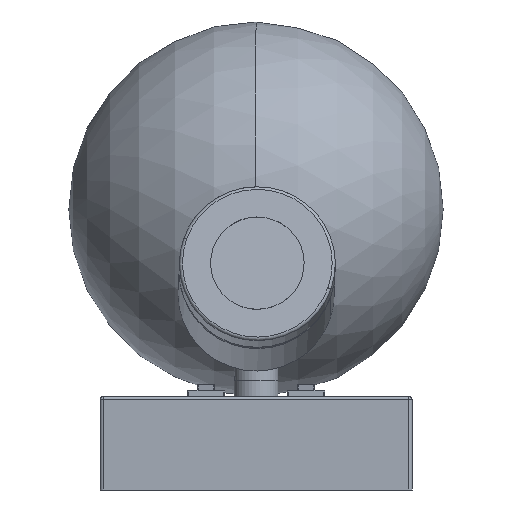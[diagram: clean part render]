
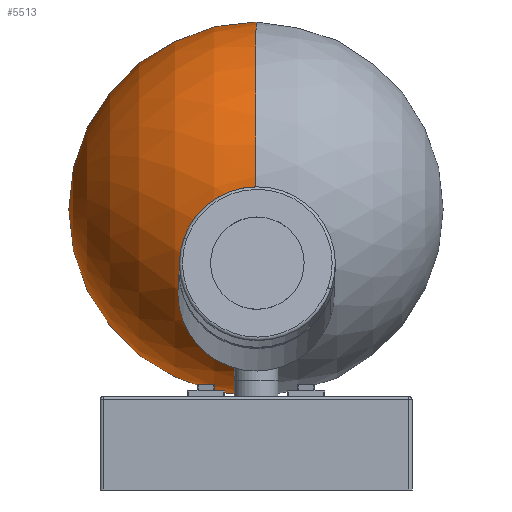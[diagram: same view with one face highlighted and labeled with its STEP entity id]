
A CAD part, front view. The second image highlights one B-rep face of the part: STEP entity #5513.
In plain terms, the highlighted spherical face has radius 60 mm.
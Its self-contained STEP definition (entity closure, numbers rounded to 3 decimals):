
#64 = VERTEX_POINT ( 'NONE', #4832 ) ;
#106 = CARTESIAN_POINT ( 'NONE',  ( 0., 75., 90. ) ) ;
#550 = VERTEX_POINT ( 'NONE', #1259 ) ;
#893 = EDGE_CURVE ( 'NONE', #64, #550, #4265, .T. ) ;
#1259 = CARTESIAN_POINT ( 'NONE',  ( 0., 75., 150. ) ) ;
#1564 = DIRECTION ( 'NONE',  ( -1., 0., 0. ) ) ;
#1774 = DIRECTION ( 'NONE',  ( 0., -1., 0. ) ) ;
#1956 = DIRECTION ( 'NONE',  ( 0., 0., -1. ) ) ;
#2278 = DIRECTION ( 'NONE',  ( -1., 0., 0. ) ) ;
#2760 = ORIENTED_EDGE ( 'NONE', *, *, #893, .T. ) ;
#2869 = EDGE_LOOP ( 'NONE', ( #6044, #2760 ) ) ;
#2921 = AXIS2_PLACEMENT_3D ( 'NONE', #5344, #2278, #1774 ) ;
#3937 = CARTESIAN_POINT ( 'NONE',  ( 0., 75., 90. ) ) ;
#4022 = DIRECTION ( 'NONE',  ( 1., 0., 0. ) ) ;
#4050 = FACE_OUTER_BOUND ( 'NONE', #2869, .T. ) ;
#4265 = CIRCLE ( 'NONE', #2921, 60. ) ;
#4832 = CARTESIAN_POINT ( 'NONE',  ( 0., 75., 30. ) ) ;
#4992 = CIRCLE ( 'NONE', #6559, 60. ) ;
#5071 = SPHERICAL_SURFACE ( 'NONE', #6100, 60. ) ;
#5344 = CARTESIAN_POINT ( 'NONE',  ( 0., 75., 90. ) ) ;
#5513 = ADVANCED_FACE ( 'NONE', ( #4050 ), #5071, .T. ) ;
#5693 = DIRECTION ( 'NONE',  ( 0., 1., 0. ) ) ;
#6044 = ORIENTED_EDGE ( 'NONE', *, *, #6182, .F. ) ;
#6100 = AXIS2_PLACEMENT_3D ( 'NONE', #106, #1564, #5693 ) ;
#6182 = EDGE_CURVE ( 'NONE', #64, #550, #4992, .T. ) ;
#6559 = AXIS2_PLACEMENT_3D ( 'NONE', #3937, #4022, #1956 ) ;
